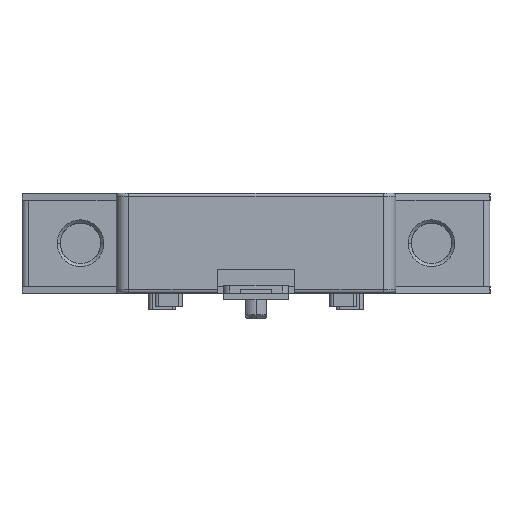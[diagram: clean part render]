
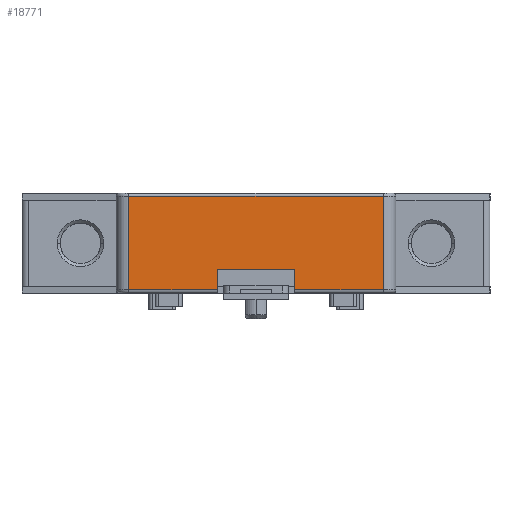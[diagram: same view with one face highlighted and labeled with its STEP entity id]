
A CAD part, top view. The second image highlights one B-rep face of the part: STEP entity #18771.
In plain terms, the highlighted planar face has unit normal (0, 0, 1).
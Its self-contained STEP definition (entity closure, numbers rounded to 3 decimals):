
#562 = CARTESIAN_POINT ( 'NONE',  ( -32.535, -10.175, 57.5 ) ) ;
#1214 = VECTOR ( 'NONE', #22346, 1000. ) ;
#1897 = VERTEX_POINT ( 'NONE', #562 ) ;
#2056 = CARTESIAN_POINT ( 'NONE',  ( -6.835, -10.175, 57.5 ) ) ;
#2072 = LINE ( 'NONE', #3653, #3261 ) ;
#2154 = VECTOR ( 'NONE', #4560, 1000. ) ;
#2172 = ORIENTED_EDGE ( 'NONE', *, *, #9332, .T. ) ;
#3226 = DIRECTION ( 'NONE',  ( 0., 0., -1. ) ) ;
#3261 = VECTOR ( 'NONE', #19488, 1000. ) ;
#3653 = CARTESIAN_POINT ( 'NONE',  ( -32.535, -3.675, 57.5 ) ) ;
#3731 = VECTOR ( 'NONE', #19756, 1000. ) ;
#3903 = DIRECTION ( 'NONE',  ( 0., 1., 0. ) ) ;
#3908 = VERTEX_POINT ( 'NONE', #21948 ) ;
#4053 = CARTESIAN_POINT ( 'NONE',  ( -18.335, -10.175, 57.5 ) ) ;
#4560 = DIRECTION ( 'NONE',  ( 1., 0., 0. ) ) ;
#4643 = ORIENTED_EDGE ( 'NONE', *, *, #5998, .F. ) ;
#4751 = CARTESIAN_POINT ( 'NONE',  ( -12.135, -6.875, 57.5 ) ) ;
#5145 = VECTOR ( 'NONE', #3903, 1000. ) ;
#5396 = VECTOR ( 'NONE', #13156, 1000. ) ;
#5419 = LINE ( 'NONE', #2056, #1214 ) ;
#5613 = EDGE_CURVE ( 'NONE', #1897, #12926, #18593, .T. ) ;
#5857 = AXIS2_PLACEMENT_3D ( 'NONE', #16610, #3226, #15246 ) ;
#5998 = EDGE_CURVE ( 'NONE', #22195, #17208, #15071, .T. ) ;
#6021 = CARTESIAN_POINT ( 'NONE',  ( -18.335, -3.675, 57.5 ) ) ;
#6165 = FACE_OUTER_BOUND ( 'NONE', #14383, .T. ) ;
#7672 = CARTESIAN_POINT ( 'NONE',  ( -5.935, -6.875, 57.5 ) ) ;
#7751 = CARTESIAN_POINT ( 'NONE',  ( 8.265, -10.175, 57.5 ) ) ;
#8310 = CARTESIAN_POINT ( 'NONE',  ( 8.265, 4.825, 57.5 ) ) ;
#8508 = ORIENTED_EDGE ( 'NONE', *, *, #21353, .T. ) ;
#9332 = EDGE_CURVE ( 'NONE', #3908, #1897, #2072, .T. ) ;
#9698 = PLANE ( 'NONE',  #5857 ) ;
#9896 = CARTESIAN_POINT ( 'NONE',  ( -17.435, -10.175, 57.5 ) ) ;
#10918 = CARTESIAN_POINT ( 'NONE',  ( -18.335, -6.875, 57.5 ) ) ;
#11033 = LINE ( 'NONE', #19423, #5145 ) ;
#11424 = VECTOR ( 'NONE', #20932, 1000. ) ;
#11694 = VERTEX_POINT ( 'NONE', #11802 ) ;
#11759 = EDGE_CURVE ( 'NONE', #11694, #14354, #5419, .T. ) ;
#11802 = CARTESIAN_POINT ( 'NONE',  ( -5.935, -10.175, 57.5 ) ) ;
#12694 = ORIENTED_EDGE ( 'NONE', *, *, #19725, .F. ) ;
#12926 = VERTEX_POINT ( 'NONE', #4053 ) ;
#13156 = DIRECTION ( 'NONE',  ( -1., 0., 0. ) ) ;
#13999 = LINE ( 'NONE', #14222, #11424 ) ;
#14222 = CARTESIAN_POINT ( 'NONE',  ( -12.135, 4.825, 57.5 ) ) ;
#14321 = VECTOR ( 'NONE', #17793, 1000. ) ;
#14354 = VERTEX_POINT ( 'NONE', #7751 ) ;
#14383 = EDGE_LOOP ( 'NONE', ( #4643, #12694, #16260, #8508, #22021, #2172, #14793, #16369 ) ) ;
#14388 = LINE ( 'NONE', #19387, #14321 ) ;
#14793 = ORIENTED_EDGE ( 'NONE', *, *, #5613, .T. ) ;
#15071 = LINE ( 'NONE', #4751, #5396 ) ;
#15246 = DIRECTION ( 'NONE',  ( 0., -1., 0. ) ) ;
#16260 = ORIENTED_EDGE ( 'NONE', *, *, #11759, .T. ) ;
#16369 = ORIENTED_EDGE ( 'NONE', *, *, #18403, .F. ) ;
#16610 = CARTESIAN_POINT ( 'NONE',  ( -12.135, -3.675, 57.5 ) ) ;
#17208 = VERTEX_POINT ( 'NONE', #10918 ) ;
#17793 = DIRECTION ( 'NONE',  ( 0., 1., 0. ) ) ;
#18403 = EDGE_CURVE ( 'NONE', #17208, #12926, #21586, .T. ) ;
#18593 = LINE ( 'NONE', #9896, #2154 ) ;
#18771 = ADVANCED_FACE ( 'NONE', ( #6165 ), #9698, .F. ) ;
#19387 = CARTESIAN_POINT ( 'NONE',  ( -5.935, -3.675, 57.5 ) ) ;
#19423 = CARTESIAN_POINT ( 'NONE',  ( 8.265, -3.675, 57.5 ) ) ;
#19488 = DIRECTION ( 'NONE',  ( 0., -1., 0. ) ) ;
#19725 = EDGE_CURVE ( 'NONE', #11694, #22195, #14388, .T. ) ;
#19756 = DIRECTION ( 'NONE',  ( 0., -1., 0. ) ) ;
#20489 = EDGE_CURVE ( 'NONE', #20797, #3908, #13999, .T. ) ;
#20797 = VERTEX_POINT ( 'NONE', #8310 ) ;
#20932 = DIRECTION ( 'NONE',  ( -1., 0., 0. ) ) ;
#21353 = EDGE_CURVE ( 'NONE', #14354, #20797, #11033, .T. ) ;
#21586 = LINE ( 'NONE', #6021, #3731 ) ;
#21948 = CARTESIAN_POINT ( 'NONE',  ( -32.535, 4.825, 57.5 ) ) ;
#22021 = ORIENTED_EDGE ( 'NONE', *, *, #20489, .T. ) ;
#22195 = VERTEX_POINT ( 'NONE', #7672 ) ;
#22346 = DIRECTION ( 'NONE',  ( 1., 0., 0. ) ) ;
